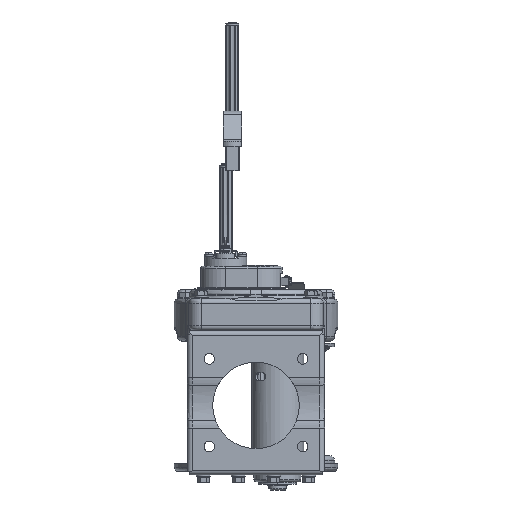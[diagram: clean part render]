
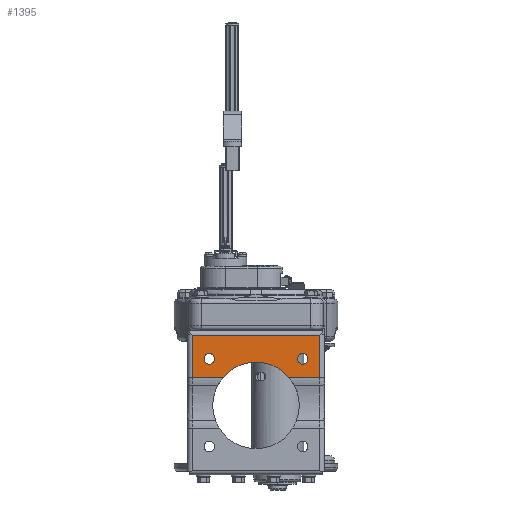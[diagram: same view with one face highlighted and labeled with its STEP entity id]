
A CAD part, front view. The second image highlights one B-rep face of the part: STEP entity #1395.
In plain terms, the highlighted planar face has unit normal (0, -1, 0).
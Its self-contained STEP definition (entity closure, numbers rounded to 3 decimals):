
#1395=ADVANCED_FACE('',(#15687,#15688,#15689),#15686,.F.);
#15686=PLANE('',#40943);
#15687=FACE_OUTER_BOUND('',#40944,.T.);
#15688=FACE_BOUND('',#40945,.T.);
#15689=FACE_BOUND('',#40946,.T.);
#40940=CARTESIAN_POINT('',(-127.722,-108.7,-182.168));
#40941=DIRECTION('',(0.,1.,0.));
#40942=DIRECTION('',(0.,0.,-1.));
#40943=AXIS2_PLACEMENT_3D('',#40940,#40941,#40942);
#40944=EDGE_LOOP('',(#62714,#62715,#62716,#62717,#62718,#62719,#62720));
#40945=EDGE_LOOP('',(#62721,#62722));
#40946=EDGE_LOOP('',(#62723,#62724));
#62714=ORIENTED_EDGE('',*,*,#75109,.T.);
#62715=ORIENTED_EDGE('',*,*,#75110,.T.);
#62716=ORIENTED_EDGE('',*,*,#75111,.T.);
#62717=ORIENTED_EDGE('',*,*,#75107,.T.);
#62718=ORIENTED_EDGE('',*,*,#74848,.T.);
#62719=ORIENTED_EDGE('',*,*,#75112,.F.);
#62720=ORIENTED_EDGE('',*,*,#74914,.F.);
#62721=ORIENTED_EDGE('',*,*,#75113,.T.);
#62722=ORIENTED_EDGE('',*,*,#75114,.T.);
#62723=ORIENTED_EDGE('',*,*,#75115,.T.);
#62724=ORIENTED_EDGE('',*,*,#75116,.T.);
#74848=EDGE_CURVE('',#102482,#102560,#102567,.T.);
#74914=EDGE_CURVE('',#102954,#103012,#103013,.T.);
#75107=EDGE_CURVE('',#104318,#102482,#104319,.T.);
#75109=EDGE_CURVE('',#102954,#104331,#104332,.T.);
#75110=EDGE_CURVE('',#104331,#104338,#104339,.T.);
#75111=EDGE_CURVE('',#104338,#104318,#104345,.T.);
#75112=EDGE_CURVE('',#103012,#102560,#104351,.T.);
#75113=EDGE_CURVE('',#104357,#104358,#104359,.T.);
#75114=EDGE_CURVE('',#104358,#104357,#104365,.T.);
#75115=EDGE_CURVE('',#104371,#104372,#104373,.T.);
#75116=EDGE_CURVE('',#104372,#104371,#104379,.T.);
#102482=VERTEX_POINT('',#144952);
#102560=VERTEX_POINT('',#144999);
#102567=LINE('',#145003,#145004);
#102954=VERTEX_POINT('',#145250);
#103012=VERTEX_POINT('',#145286);
#103013=LINE('',#145287,#145288);
#104318=VERTEX_POINT('',#146170);
#104319=LINE('',#146171,#146172);
#104331=VERTEX_POINT('',#146184);
#104332=LINE('',#146185,#146186);
#104338=VERTEX_POINT('',#146188);
#104339=CIRCLE('',#146192,74.);
#104345=CIRCLE('',#146196,74.);
#104351=LINE('',#146197,#146198);
#104357=VERTEX_POINT('',#146200);
#104358=VERTEX_POINT('',#146201);
#104359=CIRCLE('',#146205,9.);
#104365=CIRCLE('',#146209,9.);
#104371=VERTEX_POINT('',#146210);
#104372=VERTEX_POINT('',#146211);
#104373=CIRCLE('',#146215,9.);
#104379=CIRCLE('',#146219,9.);
#144952=CARTESIAN_POINT('',(-137.722,-108.7,-261.321));
#144999=CARTESIAN_POINT('',(-137.722,-108.7,-189.364));
#145003=CARTESIAN_POINT('',(-137.722,-108.7,-261.321));
#145004=VECTOR('',#145005,71.957);
#145005=DIRECTION('',(0.,0.,1.));
#145250=CARTESIAN_POINT('',(-356.722,-108.7,-261.321));
#145286=CARTESIAN_POINT('',(-356.722,-108.7,-189.364));
#145287=CARTESIAN_POINT('',(-356.722,-108.7,-261.321));
#145288=VECTOR('',#145289,71.957);
#145289=DIRECTION('',(0.,0.,1.));
#146170=CARTESIAN_POINT('',(-190.938,-108.7,-261.321));
#146171=CARTESIAN_POINT('',(-190.938,-108.7,-261.321));
#146172=VECTOR('',#146173,53.216);
#146173=DIRECTION('',(1.,0.,0.));
#146184=CARTESIAN_POINT('',(-303.505,-108.7,-261.321));
#146185=CARTESIAN_POINT('',(-356.722,-108.7,-261.321));
#146186=VECTOR('',#146187,53.216);
#146187=DIRECTION('',(1.,0.,0.));
#146188=CARTESIAN_POINT('',(-247.222,-108.7,-235.364));
#146189=CARTESIAN_POINT('',(-247.222,-108.7,-309.364));
#146190=DIRECTION('',(0.,1.,0.));
#146191=DIRECTION('',(-0.761,0.,0.649));
#146192=AXIS2_PLACEMENT_3D('',#146189,#146190,#146191);
#146193=CARTESIAN_POINT('',(-247.222,-108.7,-309.364));
#146194=DIRECTION('',(0.,1.,0.));
#146195=DIRECTION('',(-0.761,0.,0.649));
#146196=AXIS2_PLACEMENT_3D('',#146193,#146194,#146195);
#146197=CARTESIAN_POINT('',(-356.722,-108.7,-189.364));
#146198=VECTOR('',#146199,219.);
#146199=DIRECTION('',(1.,0.,0.));
#146200=CARTESIAN_POINT('',(-167.222,-108.7,-238.864));
#146201=CARTESIAN_POINT('',(-167.222,-108.7,-220.864));
#146202=CARTESIAN_POINT('',(-167.222,-108.7,-229.864));
#146203=DIRECTION('',(0.,1.,0.));
#146204=DIRECTION('',(0.,0.,-1.));
#146205=AXIS2_PLACEMENT_3D('',#146202,#146203,#146204);
#146206=CARTESIAN_POINT('',(-167.222,-108.7,-229.864));
#146207=DIRECTION('',(0.,1.,0.));
#146208=DIRECTION('',(0.,0.,-1.));
#146209=AXIS2_PLACEMENT_3D('',#146206,#146207,#146208);
#146210=CARTESIAN_POINT('',(-327.222,-108.7,-238.864));
#146211=CARTESIAN_POINT('',(-327.222,-108.7,-220.864));
#146212=CARTESIAN_POINT('',(-327.222,-108.7,-229.864));
#146213=DIRECTION('',(0.,1.,0.));
#146214=DIRECTION('',(0.,0.,-1.));
#146215=AXIS2_PLACEMENT_3D('',#146212,#146213,#146214);
#146216=CARTESIAN_POINT('',(-327.222,-108.7,-229.864));
#146217=DIRECTION('',(0.,1.,0.));
#146218=DIRECTION('',(0.,0.,-1.));
#146219=AXIS2_PLACEMENT_3D('',#146216,#146217,#146218);
